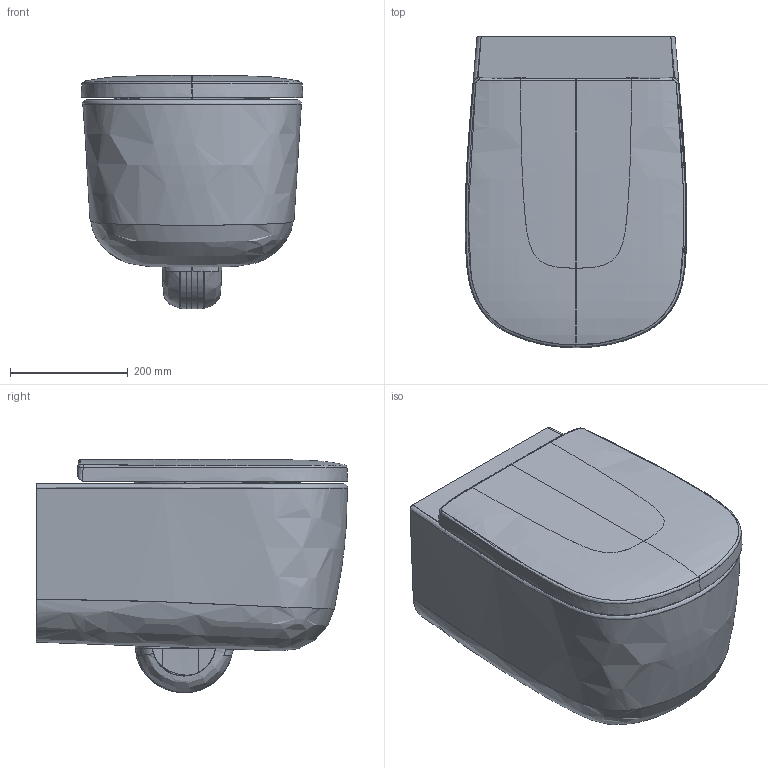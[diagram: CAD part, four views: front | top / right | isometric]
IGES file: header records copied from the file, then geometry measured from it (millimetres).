
Start section: START RECORD GO HERE.
Global section: file name: C:\Users\DE NITTO FULVIO\Desktop\Nic\2017\Maggio\Collezione Ovvio\Ovvio Vaso Rimless\Modello 3D\Ovvio Vaso Rimless Sospeso.igs; native system: Rhinoceros ( Oct 24 2012 ); preprocessor: Trout Lake IGES 012 Oct 24 2012; date: 170530.125702; units: millimetre
Bounding box: 377.26 x 530 x 397.34 mm (x, y, z)
Surface area: 1418740.1 mm2 (no closed solid volume)
Topology: 0 solids, 0 shells, 550 faces, 8711 edges, 8693 vertices
Faces by surface type: bspline 550
